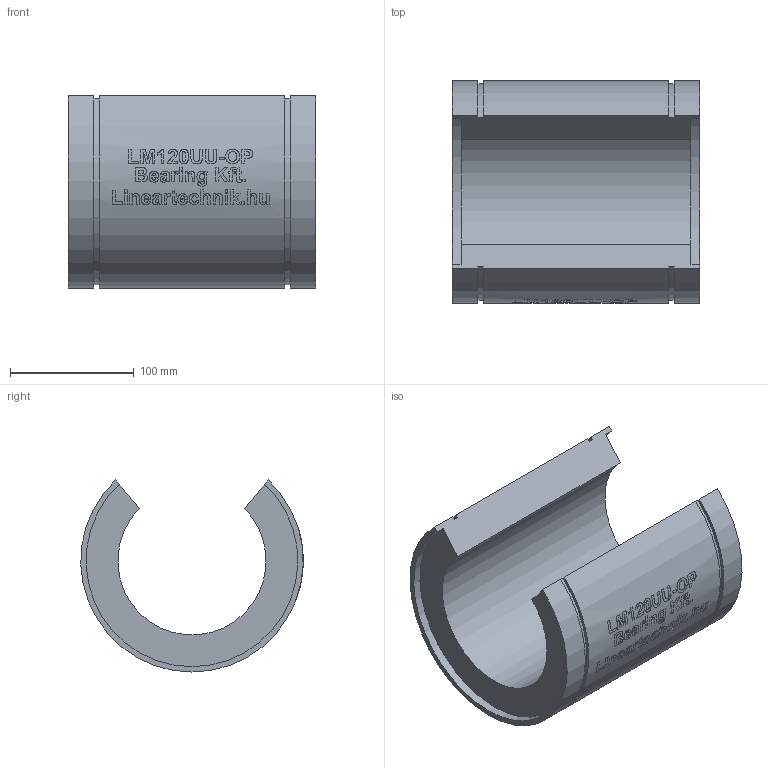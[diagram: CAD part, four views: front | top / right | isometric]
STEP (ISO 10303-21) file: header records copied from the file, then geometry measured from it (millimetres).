
FILE_DESCRIPTION(/* description */ (''),/* implementation_level */ '2;1');
FILE_NAME(/* name */ 'LM120UU-OP',/* time_stamp */ '2019-07-10T16:10:57+02:00',/* author */ ('VĂ©gh MĂˇtĂ©'),/* organization */ ('Bearing Kft'),/* preprocessor_version */ 'ST-DEVELOPER v16.7',/* originating_system */ 'DEX',/* authorisation */ $);
FILE_SCHEMA (('AUTOMOTIVE_DESIGN {1 0 10303 214 3 1 1}'));
Length unit declared in the file: millimetre
Products named in the file (1): LM120UU-OP
Bounding box: 200 x 179.93 x 155.39 mm (x, y, z)
Volume: 2002196 mm3; surface area: 181000.6 mm2
Topology: 1 solids, 1 shells, 329 faces, 828 edges, 552 vertices
Faces by surface type: plane 171, bspline 99, cylinder 59
Entity records: 24735 total; most frequent: CARTESIAN_POINT 17334, ORIENTED_EDGE 1646, DIRECTION 1242, EDGE_CURVE 823, VERTEX_POINT 552, LINE 464, VECTOR 464, AXIS2_PLACEMENT_3D 389
